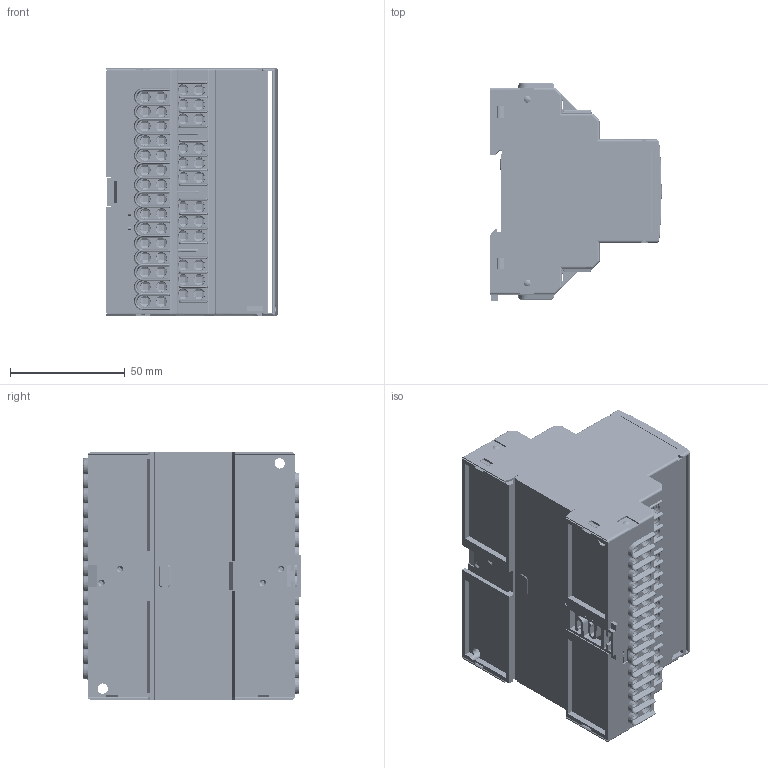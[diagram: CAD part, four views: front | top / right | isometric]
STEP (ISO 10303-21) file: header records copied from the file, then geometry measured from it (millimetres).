
FILE_DESCRIPTION (( 'STEP AP203' ), '1' );
FILE_NAME ('EDS461.STEP', '2012-08-07T06:05:42', ( 'User' ), ( 'Bender' ), 'SwSTEP 2.0', 'SolidWorks 2012', '' );
FILE_SCHEMA (( 'CONFIG_CONTROL_DESIGN' ));
Products named in the file (8): EDS461; 370033_OR; 370032_OL; 370031_V3; Plomb_z151865.02_108mm_6TE; Oberteil_z151863.08_108_V1_54p; Schieber_z151798.03; Unterteil_z151864.02_108mm_6TE
Assembly tree (22 placements, depth 2):
  EDS461
    Unterteil_z151864.02_108mm_6TE
    Schieber_z151798.03
    Oberteil_z151863.08_108_V1_54p
    Plomb_z151865.02_108mm_6TE
    370031_V3  x10
    370032_OL  x4
    370033_OR  x4
Bounding box: 74.5 x 94.7 x 107.5 mm (x, y, z)
Volume: 160769.6 mm3; surface area: 151329.4 mm2
Topology: 22 solids, 22 shells, 13928 faces, 37475 edges, 23543 vertices
Faces by surface type: plane 8605, cylinder 2991, bspline 1228, cone 772, torus 308, sphere 24
Entity records: 174772 total; most frequent: CARTESIAN_POINT 53378, ORIENTED_EDGE 26612, DIRECTION 23149, EDGE_CURVE 13306, VECTOR 9127, LINE 9127, VERTEX_POINT 8438, AXIS2_PLACEMENT_3D 7011
